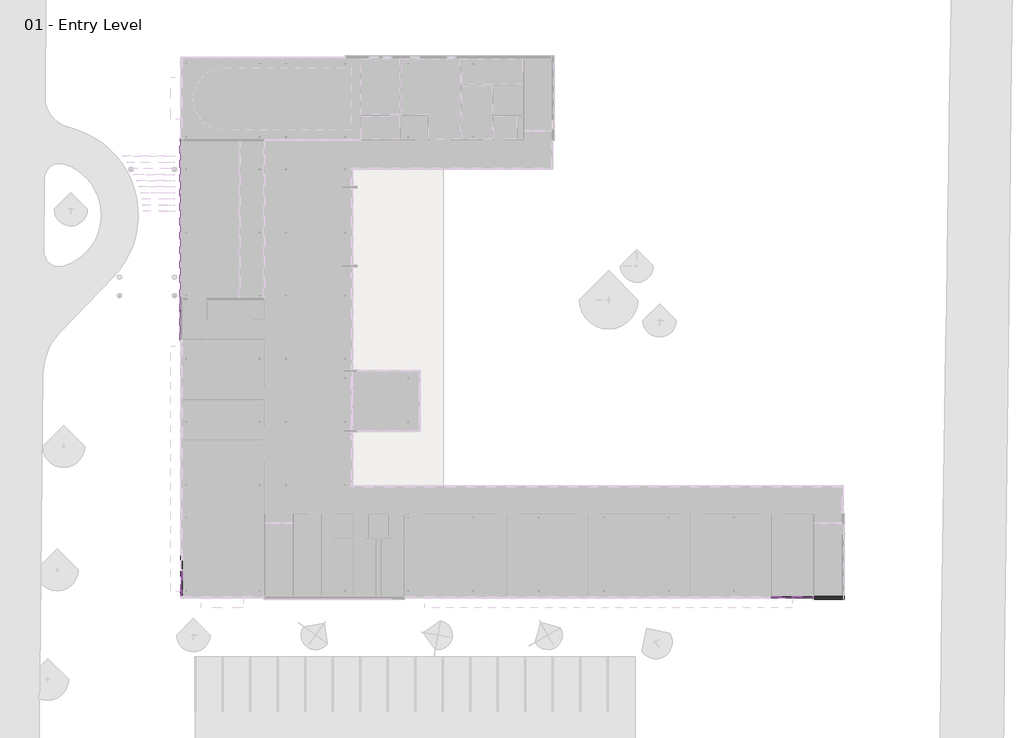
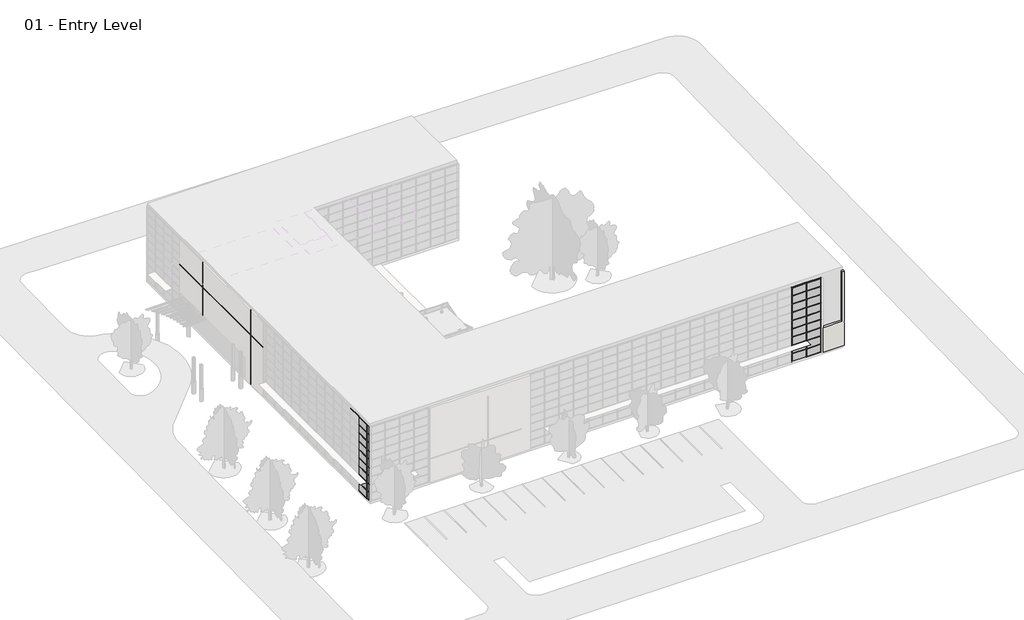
# One storey, part 6 of 34: 86 members, 36 plates, 3 proxies, 1 wall.
"""IFC4 building model written with IfcOpenShell, lengths in millimetres."""

from ifc_helpers import new_model, si_unit, frame, origin, origin_with_axes, place, context, project, spatial, polyline, outline, extrude, faceted_brep, transform, mapped, element, save
from components import member_2b49869a, member_75074519, member_391b434c, member_9e90ae50, member_b9f3750b, member_757d0d80, system_panel_glazed_1b9d6098, system_panel_glazed_70da479d, system_panel_glazed_9ce660bb, system_panel_glazed_81ef7bb2, system_panel_solid_b376696c, system_panel_solid_77e8b053, system_panel_solid_a9b7ce64, system_panel_solid_b759d50d

model = new_model("IFC4")

# Units and contexts
model_context = context("Model", 3, world=origin())
ifc_project = project(units=[si_unit("LENGTHUNIT", "METRE", prefix="MILLI")], contexts=[model_context])

# Site, building, storey
site = spatial("IfcSite", under=ifc_project)
building = spatial("IfcBuilding", under=site)
storey = spatial("IfcBuildingStorey", under=building, Name="01 - Entry Level", Elevation=0.0)

# Proxies
placement = place(None, origin())
element("IfcBuildingElementProxy", 1, Name="Reveal", ObjectType="Reveal", at=placement, inside=storey, context=model_context, shape_type="SweptSolid", body=[
    extrude(outline(polyline([(-27.6542524, 45735.8), (23.1457476, 45735.8), (23.1457476, 25631.7), (-27.6542524, 25631.7), (-27.6542524, 45735.8)])), frame((0.0, 0.0, 7239.0), z_axis=(0.0, 0.0, 1.0), x_axis=(1.0, 0.0, 0.0)), (0.0, 0.0, 1.0), 76.2),
])
element("IfcBuildingElementProxy", 2, Name="Reveal", ObjectType="Reveal", at=placement, inside=storey, context=model_context, shape_type="SweptSolid", body=[
    extrude(outline(polyline([(23.1457476, 40097.0), (-27.6542524, 40097.0), (-27.6542524, 40173.2), (23.1457476, 40173.2), (23.1457476, 40097.0)])), frame((0.0, 0.0, 3200.4), z_axis=(0.0, 0.0, 1.0), x_axis=(1.0, 0.0, 0.0)), (0.0, 0.0, 1.0), 7772.4),
])
element("IfcBuildingElementProxy", 3, Name="Reveal", ObjectType="Reveal", at=placement, inside=storey, context=model_context, shape_type="SweptSolid", body=[
    extrude(outline(polyline([(23.1457476, 28514.6), (-27.6542524, 28514.6), (-27.6542524, 28590.8), (23.1457476, 28590.8), (23.1457476, 28514.6)])), origin_with_axes(), (0.0, 0.0, 1.0), 10972.8),
])

# Members
member_shape = member_2b49869a(model_context)
element("IfcMember", 4, ObjectType="Rectangular Mullion : 2.5\" x 5\" rectangular", at=placement, inside=storey, context=model_context, shape_type="MappedRepresentation", body=[
    mapped(member_shape, transform((59043.2207476, -47.7, 9753.6), x_axis=(1.0, 0.0, 0.0), y_axis=(0.0, -1.0, 0.0), z_axis=(0.0, 0.0, -1.0))),
])
element("IfcMember", 5, ObjectType="Rectangular Mullion : 2.5\" x 5\" rectangular", at=placement, inside=storey, context=model_context, shape_type="MappedRepresentation", body=[
    mapped(member_shape, transform((61075.2207476, -47.7, 9753.6), x_axis=(1.0, 0.0, 0.0), y_axis=(0.0, -1.0, 0.0), z_axis=(0.0, 0.0, -1.0))),
])
element("IfcMember", 6, ObjectType="Rectangular Mullion : 2.5\" x 5\" rectangular", at=placement, inside=storey, context=model_context, shape_type="MappedRepresentation", body=[
    mapped(member_shape, transform((63107.2207476, -47.7, 9753.6), x_axis=(1.0, 0.0, 0.0), y_axis=(0.0, -1.0, 0.0), z_axis=(0.0, 0.0, -1.0))),
])
element("IfcMember", 7, ObjectType="Rectangular Mullion : 2.5\" x 5\" rectangular", at=placement, inside=storey, context=model_context, shape_type="MappedRepresentation", body=[
    mapped(member_shape, transform((178.7207476, 600.0, 9753.6), x_axis=(0.0, -1.0, 0.0), y_axis=(-1.0, 0.0, 0.0), z_axis=(0.0, 0.0, -1.0))),
])
member_2_shape = member_75074519(model_context)
element("IfcMember", 8, ObjectType="Rectangular Mullion : 2.5\" x 5\" rectangular", at=placement, inside=storey, context=model_context, shape_type="MappedRepresentation", body=[
    mapped(member_2_shape, transform((63145.3207476, -47.7, 9753.6), x_axis=(1.0, 0.0, 0.0), y_axis=(0.0, -1.0, 0.0), z_axis=(0.0, 0.0, -1.0))),
])
member_3_shape = member_391b434c(model_context)
element("IfcMember", 9, ObjectType="Rectangular Mullion : 2.5\" x 5\" rectangular", at=placement, inside=storey, context=model_context, shape_type="MappedRepresentation", body=[
    mapped(member_3_shape, transform((178.7207476, 2663.75, 10972.8), x_axis=(0.0, 0.0, 1.0), y_axis=(-1.0, 0.0, 0.0), z_axis=(0.0, -1.0, 0.0))),
])
element("IfcMember", 10, ObjectType="Rectangular Mullion : 2.5\" x 5\" rectangular", at=placement, inside=storey, context=model_context, shape_type="MappedRepresentation", body=[
    mapped(member_3_shape, transform((61043.4707476, -47.7, 10972.8), x_axis=(0.0, 0.0, 1.0), y_axis=(0.0, -1.0, 0.0), z_axis=(1.0, 0.0, 0.0))),
])
element("IfcMember", 11, ObjectType="Rectangular Mullion : 2.5\" x 5\" rectangular", at=placement, inside=storey, context=model_context, shape_type="MappedRepresentation", body=[
    mapped(member_3_shape, transform((63075.4707476, -47.7, 10972.8), x_axis=(0.0, 0.0, 1.0), y_axis=(0.0, -1.0, 0.0), z_axis=(1.0, 0.0, 0.0))),
])
element("IfcMember", 12, ObjectType="Rectangular Mullion : 2.5\" x 5\" rectangular", at=placement, inside=storey, context=model_context, shape_type="MappedRepresentation", body=[
    mapped(member_3_shape, transform((178.7207476, 631.75, 10972.8), x_axis=(0.0, 0.0, 1.0), y_axis=(-1.0, 0.0, 0.0), z_axis=(0.0, -1.0, 0.0))),
])
element("IfcMember", 13, ObjectType="Rectangular Mullion : 2.5\" x 5\" rectangular", at=placement, inside=storey, context=model_context, shape_type="MappedRepresentation", body=[
    mapped(member_3_shape, transform((178.7207476, 2600.25, 0.0), x_axis=(0.0, 0.0, -1.0), y_axis=(-1.0, 0.0, 0.0), z_axis=(0.0, 1.0, 0.0))),
])
element("IfcMember", 14, ObjectType="Rectangular Mullion : 2.5\" x 5\" rectangular", at=placement, inside=storey, context=model_context, shape_type="MappedRepresentation", body=[
    mapped(member_3_shape, transform((61106.9707476, -47.7, 0.0), x_axis=(0.0, 0.0, -1.0), y_axis=(0.0, -1.0, 0.0), z_axis=(-1.0, 0.0, 0.0))),
])
member_4_shape = member_9e90ae50(model_context)
element("IfcMember", 15, ObjectType="Rectangular Mullion : 2.5\" x 5\" rectangular", at=placement, inside=storey, context=model_context, shape_type="MappedRepresentation", body=[
    mapped(member_4_shape, transform((178.7207476, 2663.75, 1219.2), x_axis=(0.0, 0.0, 1.0), y_axis=(-1.0, 0.0, 0.0), z_axis=(0.0, -1.0, 0.0))),
])
element("IfcMember", 16, ObjectType="Rectangular Mullion : 2.5\" x 5\" rectangular", at=placement, inside=storey, context=model_context, shape_type="MappedRepresentation", body=[
    mapped(member_4_shape, transform((178.7207476, 631.75, 1219.2), x_axis=(0.0, 0.0, 1.0), y_axis=(-1.0, 0.0, 0.0), z_axis=(0.0, -1.0, 0.0))),
])
element("IfcMember", 17, ObjectType="Rectangular Mullion : 2.5\" x 5\" rectangular", at=placement, inside=storey, context=model_context, shape_type="MappedRepresentation", body=[
    mapped(member_4_shape, transform((178.7207476, 631.75, 2438.4), x_axis=(0.0, 0.0, 1.0), y_axis=(-1.0, 0.0, 0.0), z_axis=(0.0, -1.0, 0.0))),
])
element("IfcMember", 18, ObjectType="Rectangular Mullion : 2.5\" x 5\" rectangular", at=placement, inside=storey, context=model_context, shape_type="MappedRepresentation", body=[
    mapped(member_4_shape, transform((178.7207476, 631.75, 3657.6), x_axis=(0.0, 0.0, 1.0), y_axis=(-1.0, 0.0, 0.0), z_axis=(0.0, -1.0, 0.0))),
])
element("IfcMember", 19, ObjectType="Rectangular Mullion : 2.5\" x 5\" rectangular", at=placement, inside=storey, context=model_context, shape_type="MappedRepresentation", body=[
    mapped(member_4_shape, transform((178.7207476, 631.75, 4876.8), x_axis=(0.0, 0.0, 1.0), y_axis=(-1.0, 0.0, 0.0), z_axis=(0.0, -1.0, 0.0))),
])
element("IfcMember", 20, ObjectType="Rectangular Mullion : 2.5\" x 5\" rectangular", at=placement, inside=storey, context=model_context, shape_type="MappedRepresentation", body=[
    mapped(member_4_shape, transform((178.7207476, 631.75, 6096.0), x_axis=(0.0, 0.0, 1.0), y_axis=(-1.0, 0.0, 0.0), z_axis=(0.0, -1.0, 0.0))),
])
element("IfcMember", 21, ObjectType="Rectangular Mullion : 2.5\" x 5\" rectangular", at=placement, inside=storey, context=model_context, shape_type="MappedRepresentation", body=[
    mapped(member_4_shape, transform((178.7207476, 631.75, 7315.2), x_axis=(0.0, 0.0, 1.0), y_axis=(-1.0, 0.0, 0.0), z_axis=(0.0, -1.0, 0.0))),
])
element("IfcMember", 22, ObjectType="Rectangular Mullion : 2.5\" x 5\" rectangular", at=placement, inside=storey, context=model_context, shape_type="MappedRepresentation", body=[
    mapped(member_4_shape, transform((178.7207476, 631.75, 8534.4), x_axis=(0.0, 0.0, 1.0), y_axis=(-1.0, 0.0, 0.0), z_axis=(0.0, -1.0, 0.0))),
])
element("IfcMember", 23, ObjectType="Rectangular Mullion : 2.5\" x 5\" rectangular", at=placement, inside=storey, context=model_context, shape_type="MappedRepresentation", body=[
    mapped(member_4_shape, transform((178.7207476, 631.75, 9753.6), x_axis=(0.0, 0.0, 1.0), y_axis=(-1.0, 0.0, 0.0), z_axis=(0.0, -1.0, 0.0))),
])
element("IfcMember", 24, ObjectType="Rectangular Mullion : 2.5\" x 5\" rectangular", at=placement, inside=storey, context=model_context, shape_type="MappedRepresentation", body=[
    mapped(member_4_shape, transform((61043.4707476, -47.7, 1219.2), x_axis=(0.0, 0.0, 1.0), y_axis=(0.0, -1.0, 0.0), z_axis=(1.0, 0.0, 0.0))),
])
element("IfcMember", 25, ObjectType="Rectangular Mullion : 2.5\" x 5\" rectangular", at=placement, inside=storey, context=model_context, shape_type="MappedRepresentation", body=[
    mapped(member_4_shape, transform((63075.4707476, -47.7, 1219.2), x_axis=(0.0, 0.0, 1.0), y_axis=(0.0, -1.0, 0.0), z_axis=(1.0, 0.0, 0.0))),
])
element("IfcMember", 26, ObjectType="Rectangular Mullion : 2.5\" x 5\" rectangular", at=placement, inside=storey, context=model_context, shape_type="MappedRepresentation", body=[
    mapped(member_4_shape, transform((61043.4707476, -47.7, 2438.4), x_axis=(0.0, 0.0, 1.0), y_axis=(0.0, -1.0, 0.0), z_axis=(1.0, 0.0, 0.0))),
])
element("IfcMember", 27, ObjectType="Rectangular Mullion : 2.5\" x 5\" rectangular", at=placement, inside=storey, context=model_context, shape_type="MappedRepresentation", body=[
    mapped(member_4_shape, transform((63075.4707476, -47.7, 2438.4), x_axis=(0.0, 0.0, 1.0), y_axis=(0.0, -1.0, 0.0), z_axis=(1.0, 0.0, 0.0))),
])
element("IfcMember", 28, ObjectType="Rectangular Mullion : 2.5\" x 5\" rectangular", at=placement, inside=storey, context=model_context, shape_type="MappedRepresentation", body=[
    mapped(member_4_shape, transform((61043.4707476, -47.7, 3657.6), x_axis=(0.0, 0.0, 1.0), y_axis=(0.0, -1.0, 0.0), z_axis=(1.0, 0.0, 0.0))),
])
element("IfcMember", 29, ObjectType="Rectangular Mullion : 2.5\" x 5\" rectangular", at=placement, inside=storey, context=model_context, shape_type="MappedRepresentation", body=[
    mapped(member_4_shape, transform((63075.4707476, -47.7, 3657.6), x_axis=(0.0, 0.0, 1.0), y_axis=(0.0, -1.0, 0.0), z_axis=(1.0, 0.0, 0.0))),
])
element("IfcMember", 30, ObjectType="Rectangular Mullion : 2.5\" x 5\" rectangular", at=placement, inside=storey, context=model_context, shape_type="MappedRepresentation", body=[
    mapped(member_4_shape, transform((61043.4707476, -47.7, 4876.8), x_axis=(0.0, 0.0, 1.0), y_axis=(0.0, -1.0, 0.0), z_axis=(1.0, 0.0, 0.0))),
])
element("IfcMember", 31, ObjectType="Rectangular Mullion : 2.5\" x 5\" rectangular", at=placement, inside=storey, context=model_context, shape_type="MappedRepresentation", body=[
    mapped(member_4_shape, transform((63075.4707476, -47.7, 4876.8), x_axis=(0.0, 0.0, 1.0), y_axis=(0.0, -1.0, 0.0), z_axis=(1.0, 0.0, 0.0))),
])
element("IfcMember", 32, ObjectType="Rectangular Mullion : 2.5\" x 5\" rectangular", at=placement, inside=storey, context=model_context, shape_type="MappedRepresentation", body=[
    mapped(member_4_shape, transform((61043.4707476, -47.7, 6096.0), x_axis=(0.0, 0.0, 1.0), y_axis=(0.0, -1.0, 0.0), z_axis=(1.0, 0.0, 0.0))),
])
element("IfcMember", 33, ObjectType="Rectangular Mullion : 2.5\" x 5\" rectangular", at=placement, inside=storey, context=model_context, shape_type="MappedRepresentation", body=[
    mapped(member_4_shape, transform((63075.4707476, -47.7, 6096.0), x_axis=(0.0, 0.0, 1.0), y_axis=(0.0, -1.0, 0.0), z_axis=(1.0, 0.0, 0.0))),
])
element("IfcMember", 34, ObjectType="Rectangular Mullion : 2.5\" x 5\" rectangular", at=placement, inside=storey, context=model_context, shape_type="MappedRepresentation", body=[
    mapped(member_4_shape, transform((61043.4707476, -47.7, 7315.2), x_axis=(0.0, 0.0, 1.0), y_axis=(0.0, -1.0, 0.0), z_axis=(1.0, 0.0, 0.0))),
])
element("IfcMember", 35, ObjectType="Rectangular Mullion : 2.5\" x 5\" rectangular", at=placement, inside=storey, context=model_context, shape_type="MappedRepresentation", body=[
    mapped(member_4_shape, transform((63075.4707476, -47.7, 7315.2), x_axis=(0.0, 0.0, 1.0), y_axis=(0.0, -1.0, 0.0), z_axis=(1.0, 0.0, 0.0))),
])
element("IfcMember", 36, ObjectType="Rectangular Mullion : 2.5\" x 5\" rectangular", at=placement, inside=storey, context=model_context, shape_type="MappedRepresentation", body=[
    mapped(member_4_shape, transform((61043.4707476, -47.7, 8534.4), x_axis=(0.0, 0.0, 1.0), y_axis=(0.0, -1.0, 0.0), z_axis=(1.0, 0.0, 0.0))),
])
element("IfcMember", 37, ObjectType="Rectangular Mullion : 2.5\" x 5\" rectangular", at=placement, inside=storey, context=model_context, shape_type="MappedRepresentation", body=[
    mapped(member_4_shape, transform((63075.4707476, -47.7, 8534.4), x_axis=(0.0, 0.0, 1.0), y_axis=(0.0, -1.0, 0.0), z_axis=(1.0, 0.0, 0.0))),
])
element("IfcMember", 38, ObjectType="Rectangular Mullion : 2.5\" x 5\" rectangular", at=placement, inside=storey, context=model_context, shape_type="MappedRepresentation", body=[
    mapped(member_4_shape, transform((61043.4707476, -47.7, 9753.6), x_axis=(0.0, 0.0, 1.0), y_axis=(0.0, -1.0, 0.0), z_axis=(1.0, 0.0, 0.0))),
])
element("IfcMember", 39, ObjectType="Rectangular Mullion : 2.5\" x 5\" rectangular", at=placement, inside=storey, context=model_context, shape_type="MappedRepresentation", body=[
    mapped(member_4_shape, transform((63075.4707476, -47.7, 9753.6), x_axis=(0.0, 0.0, 1.0), y_axis=(0.0, -1.0, 0.0), z_axis=(1.0, 0.0, 0.0))),
])
element("IfcMember", 40, ObjectType="Rectangular Mullion : 2.5\" x 5\" rectangular", at=placement, inside=storey, context=model_context, shape_type="MappedRepresentation", body=[
    mapped(member_shape, transform((59043.2207476, -47.7, 0.0), x_axis=(1.0, 0.0, 0.0), y_axis=(0.0, -1.0, 0.0), z_axis=(0.0, 0.0, -1.0))),
])
element("IfcMember", 41, ObjectType="Rectangular Mullion : 2.5\" x 5\" rectangular", at=placement, inside=storey, context=model_context, shape_type="MappedRepresentation", body=[
    mapped(member_shape, transform((61075.2207476, -47.7, 0.0), x_axis=(1.0, 0.0, 0.0), y_axis=(0.0, -1.0, 0.0), z_axis=(0.0, 0.0, -1.0))),
])
element("IfcMember", 42, ObjectType="Rectangular Mullion : 2.5\" x 5\" rectangular", at=placement, inside=storey, context=model_context, shape_type="MappedRepresentation", body=[
    mapped(member_shape, transform((63107.2207476, -47.7, 0.0), x_axis=(1.0, 0.0, 0.0), y_axis=(0.0, -1.0, 0.0), z_axis=(0.0, 0.0, -1.0))),
])
element("IfcMember", 43, ObjectType="Rectangular Mullion : 2.5\" x 5\" rectangular", at=placement, inside=storey, context=model_context, shape_type="MappedRepresentation", body=[
    mapped(member_shape, transform((178.7207476, 600.0, 0.0), x_axis=(0.0, -1.0, 0.0), y_axis=(-1.0, 0.0, 0.0), z_axis=(0.0, 0.0, -1.0))),
])
element("IfcMember", 44, ObjectType="Rectangular Mullion : 2.5\" x 5\" rectangular", at=placement, inside=storey, context=model_context, shape_type="MappedRepresentation", body=[
    mapped(member_shape, transform((59043.2207476, -47.7, 1219.2), x_axis=(1.0, 0.0, 0.0), y_axis=(0.0, -1.0, 0.0), z_axis=(0.0, 0.0, -1.0))),
])
element("IfcMember", 45, ObjectType="Rectangular Mullion : 2.5\" x 5\" rectangular", at=placement, inside=storey, context=model_context, shape_type="MappedRepresentation", body=[
    mapped(member_shape, transform((61075.2207476, -47.7, 1219.2), x_axis=(1.0, 0.0, 0.0), y_axis=(0.0, -1.0, 0.0), z_axis=(0.0, 0.0, -1.0))),
])
element("IfcMember", 46, ObjectType="Rectangular Mullion : 2.5\" x 5\" rectangular", at=placement, inside=storey, context=model_context, shape_type="MappedRepresentation", body=[
    mapped(member_shape, transform((59043.2207476, -47.7, 2438.4), x_axis=(1.0, 0.0, 0.0), y_axis=(0.0, -1.0, 0.0), z_axis=(0.0, 0.0, -1.0))),
])
element("IfcMember", 47, ObjectType="Rectangular Mullion : 2.5\" x 5\" rectangular", at=placement, inside=storey, context=model_context, shape_type="MappedRepresentation", body=[
    mapped(member_shape, transform((61075.2207476, -47.7, 2438.4), x_axis=(1.0, 0.0, 0.0), y_axis=(0.0, -1.0, 0.0), z_axis=(0.0, 0.0, -1.0))),
])
element("IfcMember", 48, ObjectType="Rectangular Mullion : 2.5\" x 5\" rectangular", at=placement, inside=storey, context=model_context, shape_type="MappedRepresentation", body=[
    mapped(member_shape, transform((59043.2207476, -47.7, 3657.6), x_axis=(1.0, 0.0, 0.0), y_axis=(0.0, -1.0, 0.0), z_axis=(0.0, 0.0, -1.0))),
])
element("IfcMember", 49, ObjectType="Rectangular Mullion : 2.5\" x 5\" rectangular", at=placement, inside=storey, context=model_context, shape_type="MappedRepresentation", body=[
    mapped(member_shape, transform((61075.2207476, -47.7, 3657.6), x_axis=(1.0, 0.0, 0.0), y_axis=(0.0, -1.0, 0.0), z_axis=(0.0, 0.0, -1.0))),
])
element("IfcMember", 50, ObjectType="Rectangular Mullion : 2.5\" x 5\" rectangular", at=placement, inside=storey, context=model_context, shape_type="MappedRepresentation", body=[
    mapped(member_shape, transform((59043.2207476, -47.7, 4876.8), x_axis=(1.0, 0.0, 0.0), y_axis=(0.0, -1.0, 0.0), z_axis=(0.0, 0.0, -1.0))),
])
element("IfcMember", 51, ObjectType="Rectangular Mullion : 2.5\" x 5\" rectangular", at=placement, inside=storey, context=model_context, shape_type="MappedRepresentation", body=[
    mapped(member_shape, transform((61075.2207476, -47.7, 4876.8), x_axis=(1.0, 0.0, 0.0), y_axis=(0.0, -1.0, 0.0), z_axis=(0.0, 0.0, -1.0))),
])
element("IfcMember", 52, ObjectType="Rectangular Mullion : 2.5\" x 5\" rectangular", at=placement, inside=storey, context=model_context, shape_type="MappedRepresentation", body=[
    mapped(member_shape, transform((59043.2207476, -47.7, 6096.0), x_axis=(1.0, 0.0, 0.0), y_axis=(0.0, -1.0, 0.0), z_axis=(0.0, 0.0, -1.0))),
])
element("IfcMember", 53, ObjectType="Rectangular Mullion : 2.5\" x 5\" rectangular", at=placement, inside=storey, context=model_context, shape_type="MappedRepresentation", body=[
    mapped(member_shape, transform((61075.2207476, -47.7, 6096.0), x_axis=(1.0, 0.0, 0.0), y_axis=(0.0, -1.0, 0.0), z_axis=(0.0, 0.0, -1.0))),
])
element("IfcMember", 54, ObjectType="Rectangular Mullion : 2.5\" x 5\" rectangular", at=placement, inside=storey, context=model_context, shape_type="MappedRepresentation", body=[
    mapped(member_shape, transform((59043.2207476, -47.7, 7315.2), x_axis=(1.0, 0.0, 0.0), y_axis=(0.0, -1.0, 0.0), z_axis=(0.0, 0.0, -1.0))),
])
element("IfcMember", 55, ObjectType="Rectangular Mullion : 2.5\" x 5\" rectangular", at=placement, inside=storey, context=model_context, shape_type="MappedRepresentation", body=[
    mapped(member_shape, transform((61075.2207476, -47.7, 7315.2), x_axis=(1.0, 0.0, 0.0), y_axis=(0.0, -1.0, 0.0), z_axis=(0.0, 0.0, -1.0))),
])
element("IfcMember", 56, ObjectType="Rectangular Mullion : 2.5\" x 5\" rectangular", at=placement, inside=storey, context=model_context, shape_type="MappedRepresentation", body=[
    mapped(member_shape, transform((59043.2207476, -47.7, 8534.4), x_axis=(1.0, 0.0, 0.0), y_axis=(0.0, -1.0, 0.0), z_axis=(0.0, 0.0, -1.0))),
])
element("IfcMember", 57, ObjectType="Rectangular Mullion : 2.5\" x 5\" rectangular", at=placement, inside=storey, context=model_context, shape_type="MappedRepresentation", body=[
    mapped(member_shape, transform((61075.2207476, -47.7, 8534.4), x_axis=(1.0, 0.0, 0.0), y_axis=(0.0, -1.0, 0.0), z_axis=(0.0, 0.0, -1.0))),
])
element("IfcMember", 58, ObjectType="Rectangular Mullion : 2.5\" x 5\" rectangular", at=placement, inside=storey, context=model_context, shape_type="MappedRepresentation", body=[
    mapped(member_shape, transform((63107.2207476, -47.7, 1219.2), x_axis=(1.0, 0.0, 0.0), y_axis=(0.0, -1.0, 0.0), z_axis=(0.0, 0.0, -1.0))),
])
element("IfcMember", 59, ObjectType="Rectangular Mullion : 2.5\" x 5\" rectangular", at=placement, inside=storey, context=model_context, shape_type="MappedRepresentation", body=[
    mapped(member_shape, transform((63107.2207476, -47.7, 2438.4), x_axis=(1.0, 0.0, 0.0), y_axis=(0.0, -1.0, 0.0), z_axis=(0.0, 0.0, -1.0))),
])
element("IfcMember", 60, ObjectType="Rectangular Mullion : 2.5\" x 5\" rectangular", at=placement, inside=storey, context=model_context, shape_type="MappedRepresentation", body=[
    mapped(member_shape, transform((63107.2207476, -47.7, 3657.6), x_axis=(1.0, 0.0, 0.0), y_axis=(0.0, -1.0, 0.0), z_axis=(0.0, 0.0, -1.0))),
])
element("IfcMember", 61, ObjectType="Rectangular Mullion : 2.5\" x 5\" rectangular", at=placement, inside=storey, context=model_context, shape_type="MappedRepresentation", body=[
    mapped(member_shape, transform((63107.2207476, -47.7, 4876.8), x_axis=(1.0, 0.0, 0.0), y_axis=(0.0, -1.0, 0.0), z_axis=(0.0, 0.0, -1.0))),
])
element("IfcMember", 62, ObjectType="Rectangular Mullion : 2.5\" x 5\" rectangular", at=placement, inside=storey, context=model_context, shape_type="MappedRepresentation", body=[
    mapped(member_shape, transform((63107.2207476, -47.7, 6096.0), x_axis=(1.0, 0.0, 0.0), y_axis=(0.0, -1.0, 0.0), z_axis=(0.0, 0.0, -1.0))),
])
element("IfcMember", 63, ObjectType="Rectangular Mullion : 2.5\" x 5\" rectangular", at=placement, inside=storey, context=model_context, shape_type="MappedRepresentation", body=[
    mapped(member_shape, transform((63107.2207476, -47.7, 7315.2), x_axis=(1.0, 0.0, 0.0), y_axis=(0.0, -1.0, 0.0), z_axis=(0.0, 0.0, -1.0))),
])
element("IfcMember", 64, ObjectType="Rectangular Mullion : 2.5\" x 5\" rectangular", at=placement, inside=storey, context=model_context, shape_type="MappedRepresentation", body=[
    mapped(member_shape, transform((63107.2207476, -47.7, 8534.4), x_axis=(1.0, 0.0, 0.0), y_axis=(0.0, -1.0, 0.0), z_axis=(0.0, 0.0, -1.0))),
])
element("IfcMember", 65, ObjectType="Rectangular Mullion : 2.5\" x 5\" rectangular", at=placement, inside=storey, context=model_context, shape_type="MappedRepresentation", body=[
    mapped(member_shape, transform((178.7207476, 600.0, 1219.2), x_axis=(0.0, -1.0, 0.0), y_axis=(-1.0, 0.0, 0.0), z_axis=(0.0, 0.0, -1.0))),
])
element("IfcMember", 66, ObjectType="Rectangular Mullion : 2.5\" x 5\" rectangular", at=placement, inside=storey, context=model_context, shape_type="MappedRepresentation", body=[
    mapped(member_shape, transform((178.7207476, 600.0, 2438.4), x_axis=(0.0, -1.0, 0.0), y_axis=(-1.0, 0.0, 0.0), z_axis=(0.0, 0.0, -1.0))),
])
element("IfcMember", 67, ObjectType="Rectangular Mullion : 2.5\" x 5\" rectangular", at=placement, inside=storey, context=model_context, shape_type="MappedRepresentation", body=[
    mapped(member_shape, transform((178.7207476, 600.0, 3657.6), x_axis=(0.0, -1.0, 0.0), y_axis=(-1.0, 0.0, 0.0), z_axis=(0.0, 0.0, -1.0))),
])
element("IfcMember", 68, ObjectType="Rectangular Mullion : 2.5\" x 5\" rectangular", at=placement, inside=storey, context=model_context, shape_type="MappedRepresentation", body=[
    mapped(member_shape, transform((178.7207476, 600.0, 4876.8), x_axis=(0.0, -1.0, 0.0), y_axis=(-1.0, 0.0, 0.0), z_axis=(0.0, 0.0, -1.0))),
])
element("IfcMember", 69, ObjectType="Rectangular Mullion : 2.5\" x 5\" rectangular", at=placement, inside=storey, context=model_context, shape_type="MappedRepresentation", body=[
    mapped(member_shape, transform((178.7207476, 600.0, 6096.0), x_axis=(0.0, -1.0, 0.0), y_axis=(-1.0, 0.0, 0.0), z_axis=(0.0, 0.0, -1.0))),
])
element("IfcMember", 70, ObjectType="Rectangular Mullion : 2.5\" x 5\" rectangular", at=placement, inside=storey, context=model_context, shape_type="MappedRepresentation", body=[
    mapped(member_shape, transform((178.7207476, 600.0, 7315.2), x_axis=(0.0, -1.0, 0.0), y_axis=(-1.0, 0.0, 0.0), z_axis=(0.0, 0.0, -1.0))),
])
element("IfcMember", 71, ObjectType="Rectangular Mullion : 2.5\" x 5\" rectangular", at=placement, inside=storey, context=model_context, shape_type="MappedRepresentation", body=[
    mapped(member_shape, transform((178.7207476, 600.0, 8534.4), x_axis=(0.0, -1.0, 0.0), y_axis=(-1.0, 0.0, 0.0), z_axis=(0.0, 0.0, -1.0))),
])
element("IfcMember", 72, ObjectType="Rectangular Mullion : 2.5\" x 5\" rectangular", at=placement, inside=storey, context=model_context, shape_type="MappedRepresentation", body=[
    mapped(member_2_shape, transform((63145.3207476, -47.7, 0.0), x_axis=(1.0, 0.0, 0.0), y_axis=(0.0, -1.0, 0.0), z_axis=(0.0, 0.0, -1.0))),
])
element("IfcMember", 73, ObjectType="Rectangular Mullion : 2.5\" x 5\" rectangular", at=placement, inside=storey, context=model_context, shape_type="MappedRepresentation", body=[
    mapped(member_2_shape, transform((63145.3207476, -47.7, 1219.2), x_axis=(1.0, 0.0, 0.0), y_axis=(0.0, -1.0, 0.0), z_axis=(0.0, 0.0, -1.0))),
])
element("IfcMember", 74, ObjectType="Rectangular Mullion : 2.5\" x 5\" rectangular", at=placement, inside=storey, context=model_context, shape_type="MappedRepresentation", body=[
    mapped(member_2_shape, transform((63145.3207476, -47.7, 2438.4), x_axis=(1.0, 0.0, 0.0), y_axis=(0.0, -1.0, 0.0), z_axis=(0.0, 0.0, -1.0))),
])
element("IfcMember", 75, ObjectType="Rectangular Mullion : 2.5\" x 5\" rectangular", at=placement, inside=storey, context=model_context, shape_type="MappedRepresentation", body=[
    mapped(member_2_shape, transform((63145.3207476, -47.7, 3657.6), x_axis=(1.0, 0.0, 0.0), y_axis=(0.0, -1.0, 0.0), z_axis=(0.0, 0.0, -1.0))),
])
element("IfcMember", 76, ObjectType="Rectangular Mullion : 2.5\" x 5\" rectangular", at=placement, inside=storey, context=model_context, shape_type="MappedRepresentation", body=[
    mapped(member_2_shape, transform((63145.3207476, -47.7, 4876.8), x_axis=(1.0, 0.0, 0.0), y_axis=(0.0, -1.0, 0.0), z_axis=(0.0, 0.0, -1.0))),
])
element("IfcMember", 77, ObjectType="Rectangular Mullion : 2.5\" x 5\" rectangular", at=placement, inside=storey, context=model_context, shape_type="MappedRepresentation", body=[
    mapped(member_2_shape, transform((63145.3207476, -47.7, 6096.0), x_axis=(1.0, 0.0, 0.0), y_axis=(0.0, -1.0, 0.0), z_axis=(0.0, 0.0, -1.0))),
])
element("IfcMember", 78, ObjectType="Rectangular Mullion : 2.5\" x 5\" rectangular", at=placement, inside=storey, context=model_context, shape_type="MappedRepresentation", body=[
    mapped(member_2_shape, transform((63145.3207476, -47.7, 7315.2), x_axis=(1.0, 0.0, 0.0), y_axis=(0.0, -1.0, 0.0), z_axis=(0.0, 0.0, -1.0))),
])
element("IfcMember", 79, ObjectType="Rectangular Mullion : 2.5\" x 5\" rectangular", at=placement, inside=storey, context=model_context, shape_type="MappedRepresentation", body=[
    mapped(member_2_shape, transform((63145.3207476, -47.7, 8534.4), x_axis=(1.0, 0.0, 0.0), y_axis=(0.0, -1.0, 0.0), z_axis=(0.0, 0.0, -1.0))),
])
member_5_shape = member_b9f3750b(model_context)
element("IfcMember", 80, ObjectType="Rectangular Mullion : 2.5\" x 5\" rectangular", at=placement, inside=storey, context=model_context, shape_type="MappedRepresentation", body=[
    mapped(member_5_shape, transform((178.7207476, 79.3, 10972.8), x_axis=(0.0, 0.0, 1.0), y_axis=(-1.0, 0.0, 0.0), z_axis=(0.0, -1.0, 0.0))),
])
element("IfcMember", 81, ObjectType="Rectangular Mullion : 2.5\" x 5\" rectangular", at=placement, inside=storey, context=model_context, shape_type="MappedRepresentation", body=[
    mapped(member_5_shape, transform((178.7207476, 568.25, 0.0), x_axis=(0.0, 0.0, -1.0), y_axis=(-1.0, 0.0, 0.0), z_axis=(0.0, 1.0, 0.0))),
])
member_6_shape = member_757d0d80(model_context)
element("IfcMember", 82, ObjectType="Rectangular Mullion : 2.5\" x 5\" rectangular", at=placement, inside=storey, context=model_context, shape_type="MappedRepresentation", body=[
    mapped(member_6_shape, transform((178.7207476, 79.3, 1219.2), x_axis=(0.0, 0.0, 1.0), y_axis=(-1.0, 0.0, 0.0), z_axis=(0.0, -1.0, 0.0))),
])
element("IfcMember", 83, ObjectType="Rectangular Mullion : 2.5\" x 5\" rectangular", at=placement, inside=storey, context=model_context, shape_type="MappedRepresentation", body=[
    mapped(member_6_shape, transform((178.7207476, 79.3, 2438.4), x_axis=(0.0, 0.0, 1.0), y_axis=(-1.0, 0.0, 0.0), z_axis=(0.0, -1.0, 0.0))),
])
element("IfcMember", 84, ObjectType="Rectangular Mullion : 2.5\" x 5\" rectangular", at=placement, inside=storey, context=model_context, shape_type="MappedRepresentation", body=[
    mapped(member_6_shape, transform((178.7207476, 79.3, 3657.6), x_axis=(0.0, 0.0, 1.0), y_axis=(-1.0, 0.0, 0.0), z_axis=(0.0, -1.0, 0.0))),
])
element("IfcMember", 85, ObjectType="Rectangular Mullion : 2.5\" x 5\" rectangular", at=placement, inside=storey, context=model_context, shape_type="MappedRepresentation", body=[
    mapped(member_6_shape, transform((178.7207476, 79.3, 4876.8), x_axis=(0.0, 0.0, 1.0), y_axis=(-1.0, 0.0, 0.0), z_axis=(0.0, -1.0, 0.0))),
])
element("IfcMember", 86, ObjectType="Rectangular Mullion : 2.5\" x 5\" rectangular", at=placement, inside=storey, context=model_context, shape_type="MappedRepresentation", body=[
    mapped(member_6_shape, transform((178.7207476, 79.3, 6096.0), x_axis=(0.0, 0.0, 1.0), y_axis=(-1.0, 0.0, 0.0), z_axis=(0.0, -1.0, 0.0))),
])
element("IfcMember", 87, ObjectType="Rectangular Mullion : 2.5\" x 5\" rectangular", at=placement, inside=storey, context=model_context, shape_type="MappedRepresentation", body=[
    mapped(member_6_shape, transform((178.7207476, 79.3, 7315.2), x_axis=(0.0, 0.0, 1.0), y_axis=(-1.0, 0.0, 0.0), z_axis=(0.0, -1.0, 0.0))),
])
element("IfcMember", 88, ObjectType="Rectangular Mullion : 2.5\" x 5\" rectangular", at=placement, inside=storey, context=model_context, shape_type="MappedRepresentation", body=[
    mapped(member_6_shape, transform((178.7207476, 79.3, 8534.4), x_axis=(0.0, 0.0, 1.0), y_axis=(-1.0, 0.0, 0.0), z_axis=(0.0, -1.0, 0.0))),
])
element("IfcMember", 89, ObjectType="Rectangular Mullion : 2.5\" x 5\" rectangular", at=placement, inside=storey, context=model_context, shape_type="MappedRepresentation", body=[
    mapped(member_6_shape, transform((178.7207476, 79.3, 9753.6), x_axis=(0.0, 0.0, 1.0), y_axis=(-1.0, 0.0, 0.0), z_axis=(0.0, -1.0, 0.0))),
])

# Plates
system_panel_glazed_shape = system_panel_glazed_1b9d6098(model_context)
element("IfcPlate", 90, ObjectType="System Panel : Glazed", at=placement, inside=storey, context=model_context, shape_type="MappedRepresentation", body=[
    mapped(system_panel_glazed_shape, transform((60059.2207476, -47.7, 63.5), x_axis=(1.0, 0.0, 0.0), y_axis=(0.0, 1.0, 0.0), z_axis=(0.0, 0.0, 1.0))),
])
element("IfcPlate", 91, ObjectType="System Panel : Glazed", at=placement, inside=storey, context=model_context, shape_type="MappedRepresentation", body=[
    mapped(system_panel_glazed_shape, transform((62091.2207476, -47.7, 63.5), x_axis=(1.0, 0.0, 0.0), y_axis=(0.0, 1.0, 0.0), z_axis=(0.0, 0.0, 1.0))),
])
element("IfcPlate", 92, ObjectType="System Panel : Glazed", at=placement, inside=storey, context=model_context, shape_type="MappedRepresentation", body=[
    mapped(system_panel_glazed_shape, transform((178.7207476, 1616.0, 63.5), x_axis=(0.0, -1.0, 0.0), y_axis=(1.0, 0.0, 0.0), z_axis=(0.0, 0.0, 1.0))),
])
system_panel_glazed_2_shape = system_panel_glazed_70da479d(model_context)
element("IfcPlate", 93, ObjectType="System Panel : Glazed", at=placement, inside=storey, context=model_context, shape_type="MappedRepresentation", body=[
    mapped(system_panel_glazed_2_shape, transform((60059.2207476, -47.7, 1250.95), x_axis=(1.0, 0.0, 0.0), y_axis=(0.0, 1.0, 0.0), z_axis=(0.0, 0.0, 1.0))),
])
element("IfcPlate", 94, ObjectType="System Panel : Glazed", at=placement, inside=storey, context=model_context, shape_type="MappedRepresentation", body=[
    mapped(system_panel_glazed_2_shape, transform((62091.2207476, -47.7, 1250.95), x_axis=(1.0, 0.0, 0.0), y_axis=(0.0, 1.0, 0.0), z_axis=(0.0, 0.0, 1.0))),
])
element("IfcPlate", 95, ObjectType="System Panel : Glazed", at=placement, inside=storey, context=model_context, shape_type="MappedRepresentation", body=[
    mapped(system_panel_glazed_2_shape, transform((60059.2207476, -47.7, 3689.35), x_axis=(1.0, 0.0, 0.0), y_axis=(0.0, 1.0, 0.0), z_axis=(0.0, 0.0, 1.0))),
])
element("IfcPlate", 96, ObjectType="System Panel : Glazed", at=placement, inside=storey, context=model_context, shape_type="MappedRepresentation", body=[
    mapped(system_panel_glazed_2_shape, transform((62091.2207476, -47.7, 3689.35), x_axis=(1.0, 0.0, 0.0), y_axis=(0.0, 1.0, 0.0), z_axis=(0.0, 0.0, 1.0))),
])
element("IfcPlate", 97, ObjectType="System Panel : Glazed", at=placement, inside=storey, context=model_context, shape_type="MappedRepresentation", body=[
    mapped(system_panel_glazed_2_shape, transform((60059.2207476, -47.7, 4908.55), x_axis=(1.0, 0.0, 0.0), y_axis=(0.0, 1.0, 0.0), z_axis=(0.0, 0.0, 1.0))),
])
element("IfcPlate", 98, ObjectType="System Panel : Glazed", at=placement, inside=storey, context=model_context, shape_type="MappedRepresentation", body=[
    mapped(system_panel_glazed_2_shape, transform((62091.2207476, -47.7, 4908.55), x_axis=(1.0, 0.0, 0.0), y_axis=(0.0, 1.0, 0.0), z_axis=(0.0, 0.0, 1.0))),
])
element("IfcPlate", 99, ObjectType="System Panel : Glazed", at=placement, inside=storey, context=model_context, shape_type="MappedRepresentation", body=[
    mapped(system_panel_glazed_2_shape, transform((60059.2207476, -47.7, 7346.95), x_axis=(1.0, 0.0, 0.0), y_axis=(0.0, 1.0, 0.0), z_axis=(0.0, 0.0, 1.0))),
])
element("IfcPlate", 100, ObjectType="System Panel : Glazed", at=placement, inside=storey, context=model_context, shape_type="MappedRepresentation", body=[
    mapped(system_panel_glazed_2_shape, transform((62091.2207476, -47.7, 7346.95), x_axis=(1.0, 0.0, 0.0), y_axis=(0.0, 1.0, 0.0), z_axis=(0.0, 0.0, 1.0))),
])
element("IfcPlate", 101, ObjectType="System Panel : Glazed", at=placement, inside=storey, context=model_context, shape_type="MappedRepresentation", body=[
    mapped(system_panel_glazed_2_shape, transform((60059.2207476, -47.7, 8566.15), x_axis=(1.0, 0.0, 0.0), y_axis=(0.0, 1.0, 0.0), z_axis=(0.0, 0.0, 1.0))),
])
element("IfcPlate", 102, ObjectType="System Panel : Glazed", at=placement, inside=storey, context=model_context, shape_type="MappedRepresentation", body=[
    mapped(system_panel_glazed_2_shape, transform((62091.2207476, -47.7, 8566.15), x_axis=(1.0, 0.0, 0.0), y_axis=(0.0, 1.0, 0.0), z_axis=(0.0, 0.0, 1.0))),
])
element("IfcPlate", 103, ObjectType="System Panel : Glazed", at=placement, inside=storey, context=model_context, shape_type="MappedRepresentation", body=[
    mapped(system_panel_glazed_2_shape, transform((178.7207476, 1616.0, 1250.95), x_axis=(0.0, -1.0, 0.0), y_axis=(1.0, 0.0, 0.0), z_axis=(0.0, 0.0, 1.0))),
])
element("IfcPlate", 104, ObjectType="System Panel : Glazed", at=placement, inside=storey, context=model_context, shape_type="MappedRepresentation", body=[
    mapped(system_panel_glazed_2_shape, transform((178.7207476, 1616.0, 3689.35), x_axis=(0.0, -1.0, 0.0), y_axis=(1.0, 0.0, 0.0), z_axis=(0.0, 0.0, 1.0))),
])
element("IfcPlate", 105, ObjectType="System Panel : Glazed", at=placement, inside=storey, context=model_context, shape_type="MappedRepresentation", body=[
    mapped(system_panel_glazed_2_shape, transform((178.7207476, 1616.0, 4908.55), x_axis=(0.0, -1.0, 0.0), y_axis=(1.0, 0.0, 0.0), z_axis=(0.0, 0.0, 1.0))),
])
element("IfcPlate", 106, ObjectType="System Panel : Glazed", at=placement, inside=storey, context=model_context, shape_type="MappedRepresentation", body=[
    mapped(system_panel_glazed_2_shape, transform((178.7207476, 1616.0, 7346.95), x_axis=(0.0, -1.0, 0.0), y_axis=(1.0, 0.0, 0.0), z_axis=(0.0, 0.0, 1.0))),
])
element("IfcPlate", 107, ObjectType="System Panel : Glazed", at=placement, inside=storey, context=model_context, shape_type="MappedRepresentation", body=[
    mapped(system_panel_glazed_2_shape, transform((178.7207476, 1616.0, 8566.15), x_axis=(0.0, -1.0, 0.0), y_axis=(1.0, 0.0, 0.0), z_axis=(0.0, 0.0, 1.0))),
])
system_panel_glazed_3_shape = system_panel_glazed_9ce660bb(model_context)
element("IfcPlate", 108, ObjectType="System Panel : Glazed", at=placement, inside=storey, context=model_context, shape_type="MappedRepresentation", body=[
    mapped(system_panel_glazed_3_shape, transform((178.7207476, 323.775, 63.5), x_axis=(0.0, -1.0, 0.0), y_axis=(1.0, 0.0, 0.0), z_axis=(0.0, 0.0, 1.0))),
])
system_panel_glazed_4_shape = system_panel_glazed_81ef7bb2(model_context)
element("IfcPlate", 109, ObjectType="System Panel : Glazed", at=placement, inside=storey, context=model_context, shape_type="MappedRepresentation", body=[
    mapped(system_panel_glazed_4_shape, transform((178.7207476, 323.775, 1250.95), x_axis=(0.0, -1.0, 0.0), y_axis=(1.0, 0.0, 0.0), z_axis=(0.0, 0.0, 1.0))),
])
element("IfcPlate", 110, ObjectType="System Panel : Glazed", at=placement, inside=storey, context=model_context, shape_type="MappedRepresentation", body=[
    mapped(system_panel_glazed_4_shape, transform((178.7207476, 323.775, 3689.35), x_axis=(0.0, -1.0, 0.0), y_axis=(1.0, 0.0, 0.0), z_axis=(0.0, 0.0, 1.0))),
])
element("IfcPlate", 111, ObjectType="System Panel : Glazed", at=placement, inside=storey, context=model_context, shape_type="MappedRepresentation", body=[
    mapped(system_panel_glazed_4_shape, transform((178.7207476, 323.775, 4908.55), x_axis=(0.0, -1.0, 0.0), y_axis=(1.0, 0.0, 0.0), z_axis=(0.0, 0.0, 1.0))),
])
element("IfcPlate", 112, ObjectType="System Panel : Glazed", at=placement, inside=storey, context=model_context, shape_type="MappedRepresentation", body=[
    mapped(system_panel_glazed_4_shape, transform((178.7207476, 323.775, 7346.95), x_axis=(0.0, -1.0, 0.0), y_axis=(1.0, 0.0, 0.0), z_axis=(0.0, 0.0, 1.0))),
])
element("IfcPlate", 113, ObjectType="System Panel : Glazed", at=placement, inside=storey, context=model_context, shape_type="MappedRepresentation", body=[
    mapped(system_panel_glazed_4_shape, transform((178.7207476, 323.775, 8566.15), x_axis=(0.0, -1.0, 0.0), y_axis=(1.0, 0.0, 0.0), z_axis=(0.0, 0.0, 1.0))),
])
system_panel_solid_shape = system_panel_solid_b376696c(model_context)
element("IfcPlate", 114, ObjectType="System Panel : Solid", at=placement, inside=storey, context=model_context, shape_type="MappedRepresentation", body=[
    mapped(system_panel_solid_shape, transform((60059.2207476, -47.7, 9785.35), x_axis=(1.0, 0.0, 0.0), y_axis=(0.0, 1.0, 0.0), z_axis=(0.0, 0.0, 1.0))),
])
element("IfcPlate", 115, ObjectType="System Panel : Solid", at=placement, inside=storey, context=model_context, shape_type="MappedRepresentation", body=[
    mapped(system_panel_solid_shape, transform((62091.2207476, -47.7, 9785.35), x_axis=(1.0, 0.0, 0.0), y_axis=(0.0, 1.0, 0.0), z_axis=(0.0, 0.0, 1.0))),
])
element("IfcPlate", 116, ObjectType="System Panel : Solid", at=placement, inside=storey, context=model_context, shape_type="MappedRepresentation", body=[
    mapped(system_panel_solid_shape, transform((178.7207476, 1616.0, 9785.35), x_axis=(0.0, -1.0, 0.0), y_axis=(1.0, 0.0, 0.0), z_axis=(0.0, 0.0, 1.0))),
])
system_panel_solid_2_shape = system_panel_solid_77e8b053(model_context)
element("IfcPlate", 117, ObjectType="System Panel : Solid", at=placement, inside=storey, context=model_context, shape_type="MappedRepresentation", body=[
    mapped(system_panel_solid_2_shape, transform((60059.2207476, -47.7, 2470.15), x_axis=(1.0, 0.0, 0.0), y_axis=(0.0, 1.0, 0.0), z_axis=(0.0, 0.0, 1.0))),
])
element("IfcPlate", 118, ObjectType="System Panel : Solid", at=placement, inside=storey, context=model_context, shape_type="MappedRepresentation", body=[
    mapped(system_panel_solid_2_shape, transform((62091.2207476, -47.7, 2470.15), x_axis=(1.0, 0.0, 0.0), y_axis=(0.0, 1.0, 0.0), z_axis=(0.0, 0.0, 1.0))),
])
element("IfcPlate", 119, ObjectType="System Panel : Solid", at=placement, inside=storey, context=model_context, shape_type="MappedRepresentation", body=[
    mapped(system_panel_solid_2_shape, transform((60059.2207476, -47.7, 6127.75), x_axis=(1.0, 0.0, 0.0), y_axis=(0.0, 1.0, 0.0), z_axis=(0.0, 0.0, 1.0))),
])
element("IfcPlate", 120, ObjectType="System Panel : Solid", at=placement, inside=storey, context=model_context, shape_type="MappedRepresentation", body=[
    mapped(system_panel_solid_2_shape, transform((62091.2207476, -47.7, 6127.75), x_axis=(1.0, 0.0, 0.0), y_axis=(0.0, 1.0, 0.0), z_axis=(0.0, 0.0, 1.0))),
])
element("IfcPlate", 121, ObjectType="System Panel : Solid", at=placement, inside=storey, context=model_context, shape_type="MappedRepresentation", body=[
    mapped(system_panel_solid_2_shape, transform((178.7207476, 1616.0, 2470.15), x_axis=(0.0, -1.0, 0.0), y_axis=(1.0, 0.0, 0.0), z_axis=(0.0, 0.0, 1.0))),
])
element("IfcPlate", 122, ObjectType="System Panel : Solid", at=placement, inside=storey, context=model_context, shape_type="MappedRepresentation", body=[
    mapped(system_panel_solid_2_shape, transform((178.7207476, 1616.0, 6127.75), x_axis=(0.0, -1.0, 0.0), y_axis=(1.0, 0.0, 0.0), z_axis=(0.0, 0.0, 1.0))),
])
system_panel_solid_3_shape = system_panel_solid_a9b7ce64(model_context)
element("IfcPlate", 123, ObjectType="System Panel : Solid", at=placement, inside=storey, context=model_context, shape_type="MappedRepresentation", body=[
    mapped(system_panel_solid_3_shape, transform((178.7207476, 323.775, 2470.15), x_axis=(0.0, -1.0, 0.0), y_axis=(1.0, 0.0, 0.0), z_axis=(0.0, 0.0, 1.0))),
])
element("IfcPlate", 124, ObjectType="System Panel : Solid", at=placement, inside=storey, context=model_context, shape_type="MappedRepresentation", body=[
    mapped(system_panel_solid_3_shape, transform((178.7207476, 323.775, 6127.75), x_axis=(0.0, -1.0, 0.0), y_axis=(1.0, 0.0, 0.0), z_axis=(0.0, 0.0, 1.0))),
])
system_panel_solid_4_shape = system_panel_solid_b759d50d(model_context)
element("IfcPlate", 125, ObjectType="System Panel : Solid", at=placement, inside=storey, context=model_context, shape_type="MappedRepresentation", body=[
    mapped(system_panel_solid_4_shape, transform((178.7207476, 323.775, 9785.35), x_axis=(0.0, -1.0, 0.0), y_axis=(1.0, 0.0, 0.0), z_axis=(0.0, 0.0, 1.0))),
])

# Wall
element("IfcWall", 126, ObjectType="Exterior - EIFS on CMU", at=placement, inside=storey, context=model_context, shape_type="Brep", body=[
    faceted_brep([(63348.5207476, -254.075, 0.0), (66310.7957476, -254.075, 0.0), (66310.7957476, -254.075, 3429.0), (66259.9957476, -254.075, 3429.0), (66259.9957476, -254.075, 3505.2), (66310.7957476, -254.075, 3505.2), (66310.7957476, -254.075, 10972.8), (66015.5207476, -254.075, 10972.8), (66002.8207476, -254.075, 10972.8), (66002.8207476, -254.075, 3657.6), (63348.5207476, -254.075, 3657.6), (66310.7957476, 53.9, 0.0), (66002.8207476, 53.9, 0.0), (63348.5207476, 53.9, 0.0), (63348.5207476, 53.9, 3657.6), (66002.8207476, 53.9, 3657.6), (66002.8207476, 53.9, 10972.8), (66310.7957476, 53.9, 10972.8), (66310.7957476, 53.9, 3505.2), (66259.9957476, 53.9, 3505.2), (66259.9957476, 53.9, 3429.0), (66310.7957476, 53.9, 3429.0)], [[[0, 1, 2, 3, 4, 5, 6, 7, 8, 9, 10]], [[11, 12, 13, 14, 15, 16, 17, 18, 19, 20, 21]], [[1, 0, 13, 12, 11]], [[6, 17, 16, 8, 7]], [[1, 11, 21, 2]], [[17, 6, 5, 18]], [[13, 0, 10, 14]], [[15, 9, 8, 16]], [[9, 15, 14, 10]], [[19, 4, 3, 20]], [[20, 3, 2, 21]], [[4, 19, 18, 5]]]),
])

save(model, "model.ifc")
